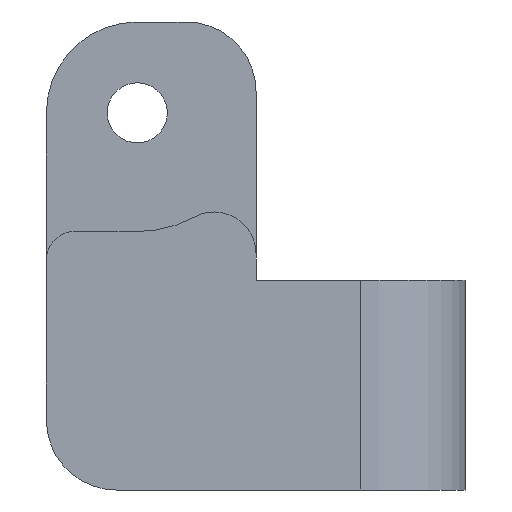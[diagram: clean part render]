
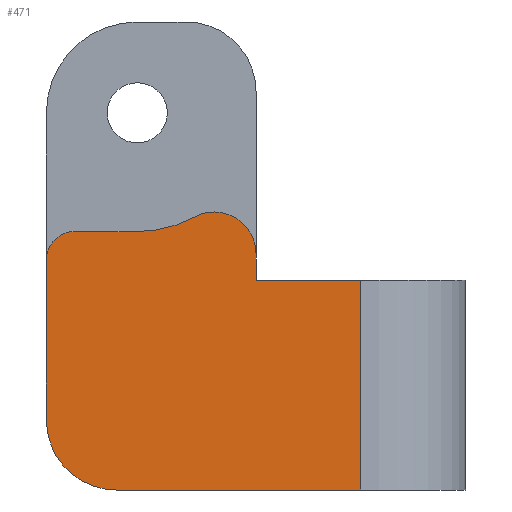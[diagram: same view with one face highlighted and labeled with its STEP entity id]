
A CAD part, front view. The second image highlights one B-rep face of the part: STEP entity #471.
In plain terms, the highlighted planar face has unit normal (0, -1, 0).
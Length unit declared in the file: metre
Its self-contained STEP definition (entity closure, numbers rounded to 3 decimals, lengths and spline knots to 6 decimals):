
#32=LINE('',#733,#69);
#53=LINE('',#792,#90);
#58=LINE('',#806,#95);
#59=LINE('',#808,#96);
#60=LINE('',#811,#97);
#61=LINE('',#813,#98);
#69=VECTOR('',#581,1.);
#90=VECTOR('',#638,1.);
#95=VECTOR('',#653,1.);
#96=VECTOR('',#656,1.);
#97=VECTOR('',#657,1.);
#98=VECTOR('',#658,1.);
#182=ORIENTED_EDGE('',*,*,#282,.T.);
#183=ORIENTED_EDGE('',*,*,#283,.T.);
#184=ORIENTED_EDGE('',*,*,#284,.F.);
#185=ORIENTED_EDGE('',*,*,#275,.T.);
#186=ORIENTED_EDGE('',*,*,#285,.T.);
#187=ORIENTED_EDGE('',*,*,#277,.F.);
#188=ORIENTED_EDGE('',*,*,#281,.T.);
#189=ORIENTED_EDGE('',*,*,#286,.T.);
#190=ORIENTED_EDGE('',*,*,#244,.T.);
#191=ORIENTED_EDGE('',*,*,#287,.T.);
#244=EDGE_CURVE('',#310,#309,#32,.T.);
#275=EDGE_CURVE('',#330,#329,#53,.T.);
#277=EDGE_CURVE('',#331,#332,#359,.T.);
#281=EDGE_CURVE('',#331,#333,#58,.T.);
#282=EDGE_CURVE('',#334,#335,#59,.T.);
#283=EDGE_CURVE('',#335,#336,#60,.T.);
#284=EDGE_CURVE('',#330,#336,#61,.T.);
#285=EDGE_CURVE('',#329,#332,#360,.T.);
#286=EDGE_CURVE('',#333,#310,#361,.T.);
#287=EDGE_CURVE('',#309,#334,#362,.T.);
#309=VERTEX_POINT('',#732);
#310=VERTEX_POINT('',#734);
#329=VERTEX_POINT('',#791);
#330=VERTEX_POINT('',#793);
#331=VERTEX_POINT('',#799);
#332=VERTEX_POINT('',#800);
#333=VERTEX_POINT('',#805);
#334=VERTEX_POINT('',#809);
#335=VERTEX_POINT('',#810);
#336=VERTEX_POINT('',#812);
#359=CIRCLE('',#528,0.0085);
#360=CIRCLE('',#531,0.003);
#361=CIRCLE('',#532,0.002);
#362=CIRCLE('',#533,0.005);
#388=EDGE_LOOP('',(#182,#183,#184,#185,#186,#187,#188,#189,#190,#191));
#425=FACE_BOUND('',#388,.T.);
#452=PLANE('',#530);
#471=ADVANCED_FACE('',(#425),#452,.T.);
#528=AXIS2_PLACEMENT_3D('',#798,#646,#647);
#530=AXIS2_PLACEMENT_3D('',#807,#654,#655);
#531=AXIS2_PLACEMENT_3D('',#814,#659,#660);
#532=AXIS2_PLACEMENT_3D('',#815,#661,#662);
#533=AXIS2_PLACEMENT_3D('',#816,#663,#664);
#581=DIRECTION('',(0.,0.,-1.));
#638=DIRECTION('',(0.,0.,1.));
#646=DIRECTION('',(0.,-1.,0.));
#647=DIRECTION('',(0.,0.,-1.));
#653=DIRECTION('',(-1.,0.,0.));
#654=DIRECTION('',(0.,-1.,0.));
#655=DIRECTION('',(1.,0.,0.));
#656=DIRECTION('',(1.,0.,0.));
#657=DIRECTION('',(0.,0.,1.));
#658=DIRECTION('',(1.,0.,0.));
#659=DIRECTION('',(0.,-1.,0.));
#660=DIRECTION('',(0.,0.,-1.));
#661=DIRECTION('',(0.,-1.,0.));
#662=DIRECTION('',(0.,0.,-1.));
#663=DIRECTION('',(0.,-1.,0.));
#664=DIRECTION('',(0.,0.,-1.));
#732=CARTESIAN_POINT('',(0.3025,-0.04,-0.041));
#733=CARTESIAN_POINT('',(0.3025,-0.04,-0.025));
#734=CARTESIAN_POINT('',(0.3025,-0.04,-0.0295));
#791=CARTESIAN_POINT('',(0.3175,-0.04,-0.0291));
#792=CARTESIAN_POINT('',(0.3175,-0.04,-0.01575));
#793=CARTESIAN_POINT('',(0.3175,-0.04,-0.031));
#798=CARTESIAN_POINT('',(0.309,-0.04,-0.019));
#799=CARTESIAN_POINT('',(0.309,-0.04,-0.0275));
#800=CARTESIAN_POINT('',(0.313065,-0.04,-0.026465));
#805=CARTESIAN_POINT('',(0.3045,-0.04,-0.0275));
#806=CARTESIAN_POINT('',(0.30575,-0.04,-0.0275));
#807=CARTESIAN_POINT('',(0.309,-0.04,-0.02075));
#808=CARTESIAN_POINT('',(0.309,-0.04,-0.046));
#809=CARTESIAN_POINT('',(0.3075,-0.04,-0.046));
#810=CARTESIAN_POINT('',(0.325,-0.04,-0.046));
#811=CARTESIAN_POINT('',(0.325,-0.04,-0.02075));
#812=CARTESIAN_POINT('',(0.325,-0.04,-0.031));
#813=CARTESIAN_POINT('',(0.309,-0.04,-0.031));
#814=CARTESIAN_POINT('',(0.3145,-0.04,-0.0291));
#815=CARTESIAN_POINT('',(0.3045,-0.04,-0.0295));
#816=CARTESIAN_POINT('',(0.3075,-0.04,-0.041));
